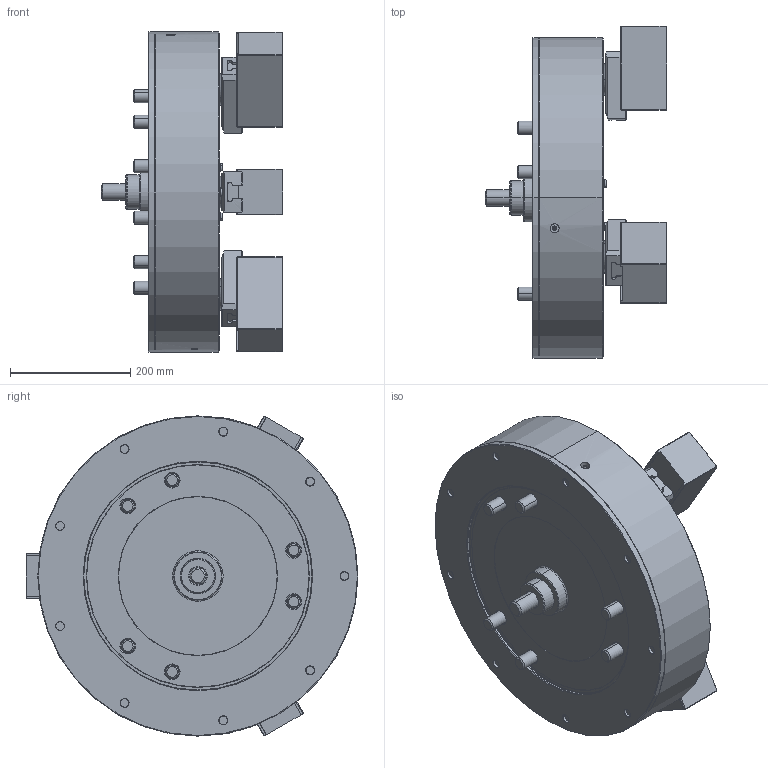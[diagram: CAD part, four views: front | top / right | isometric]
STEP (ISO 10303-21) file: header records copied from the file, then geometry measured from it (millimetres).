
FILE_DESCRIPTION (( 'STEP AP214' ), '1' );
FILE_NAME ('PW-21_CL_ID.STEP', '2023-08-02T06:57:58', ( '' ), ( '' ), 'SwSTEP 2.0', 'SolidWorks 2020', '' );
FILE_SCHEMA (( 'AUTOMOTIVE_DESIGN' ));
Length unit declared in the file: millimetre
Products named in the file (5): Part5^61P118462_dummy_ID; 61P422878; PW-21_CL_ID; PW-21_61P326096_ソフトジョー; 0030120030
Assembly tree (13 placements, depth 2):
  PW-21_CL_ID
    PW-21_61P326096_ソフトジョー  x3
    61P422878  x3
    0030120030  x6
    Part5^61P118462_dummy_ID
Bounding box: 302 x 552.55 x 533 mm (x, y, z)
Volume: 28471331.9 mm3; surface area: 1169403.8 mm2
Topology: 13 solids, 17 shells, 3194 faces, 8226 edges, 5332 vertices
Faces by surface type: plane 1879, bspline 584, cone 372, cylinder 319, torus 32, sphere 8
Entity records: 112420 total; most frequent: CARTESIAN_POINT 43987, ORIENTED_EDGE 15284, DIRECTION 11698, EDGE_CURVE 7642, LINE 5114, VECTOR 5114, VERTEX_POINT 4989, AXIS2_PLACEMENT_3D 3292
